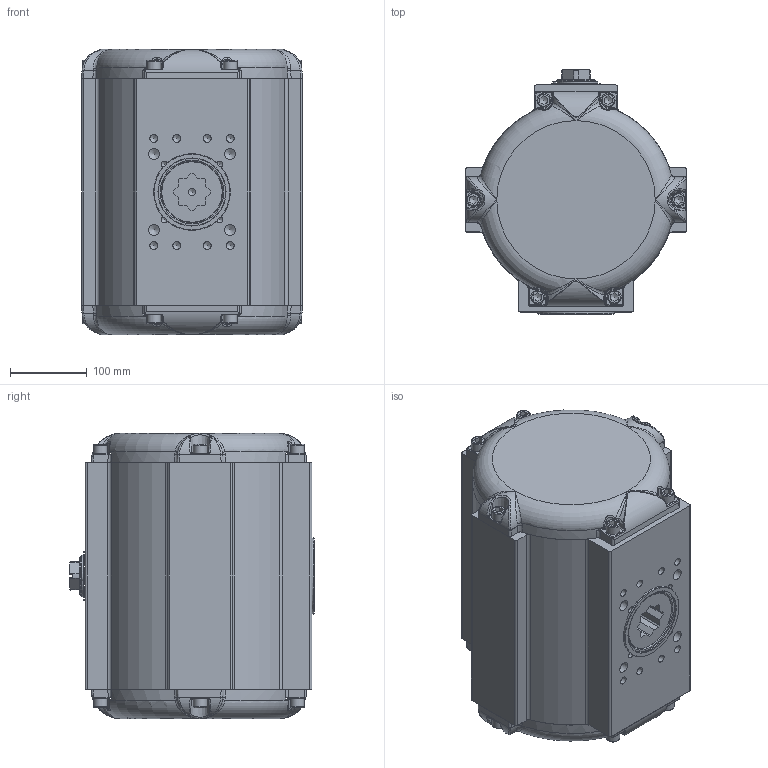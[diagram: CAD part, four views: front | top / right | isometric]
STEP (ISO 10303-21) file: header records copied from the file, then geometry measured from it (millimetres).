
FILE_DESCRIPTION((''),'2;1');
FILE_NAME('Z:\DOKUMENTATION ANTRIEBSPROGRAMM\Antriebe (neu)\BR16_SAD_SAF_90°\STEP-Dateien\42\SAD_42_BR16.stp','2017-06-27T09:05:29',('vmi'),(''),'Autodesk Inventor 2013','Autodesk Inventor 2013','');
FILE_SCHEMA(('AUTOMOTIVE_DESIGN { 1 0 10303 214 1 1 1 1 }'));
Length unit declared in the file: millimetre
Products named in the file (1): ENG-084102_Shrinkwrap_1
Bounding box: 288 x 319 x 372.2 mm (x, y, z)
Surface area: 565670.9 mm2 (no closed solid volume)
Topology: 0 solids, 27 shells, 595 faces, 1922 edges, 1258 vertices
Faces by surface type: plane 212, cylinder 158, bspline 124, cone 60, torus 41
Full cylindrical faces by diameter (mm): 2.5 x2, 4.134 x8, 4.917 x1, 8 x2, 8.376 x6, 10.106 x8, 11.445 x2, 14.376 x4, 18 x12, 37 x1, 46.3 x1, 49.8 x1, 63 x1, 88 x1, 100 x1
Entity records: 26389 total; most frequent: CARTESIAN_POINT 10792, ORIENTED_EDGE 2915, DIRECTION 2825, EDGE_CURVE 1752, VERTEX_POINT 1209, AXIS2_PLACEMENT_3D 1134, EDGE_LOOP 759, FACE_OUTER_BOUND 595
